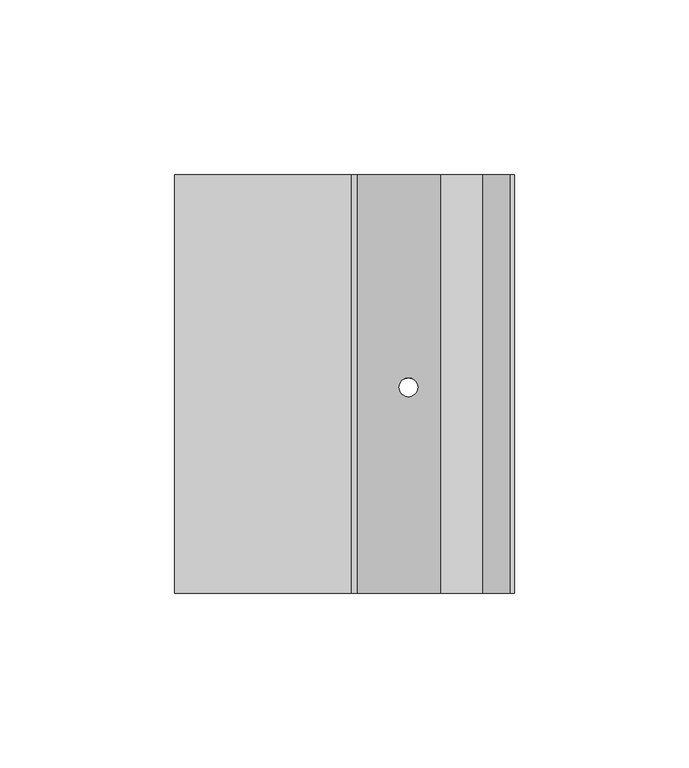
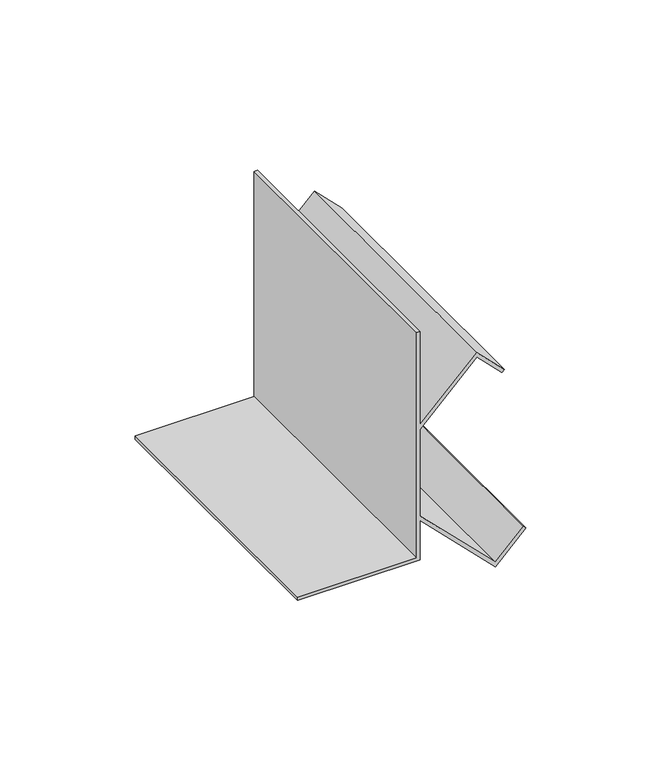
"""IFC4 building model written with IfcOpenShell, lengths in millimetres: proxy geometry, Mechanical Fittings & Accessories11 : Mechanical Fittings & Accessories."""

from ifc_helpers import new_model, si_unit, frame, origin, place, context, project, spatial, polyline, ellipse_curve, source, transform, mapped, element, save
from ifc_brep_helpers import plane_surface, revolved_surface, advanced_brep


def generic_models_41f4955b(model_context):
    return source(origin(), model_context, "Body", "AdvancedBrep", [
        advanced_brep(
        [(-12208.7639562, 2079.4963986, 4114.8), (-12259.5639562, 2079.4963986, 4114.8), (-12259.5639562, 2079.4963986, 4113.3117188), (-12207.275675, 2079.4963986, 4113.3117188), (-12207.275675, 2079.4963986, 4131.1383509), (-12175.165914, 2079.4963986, 4099.0285899), (-12162.1869427, 2079.4963986, 4112.0075612), (-12163.2393164, 2079.4963986, 4113.059935), (-12175.165914, 2079.4963986, 4101.1333374), (-12207.275675, 2079.4963986, 4133.2430984), (-12207.275675, 2079.4963986, 4172.2761118), (-12183.103414, 2079.4963986, 4196.4483729), (-12172.3674414, 2079.4963986, 4185.7124003), (-12171.3150677, 2079.4963986, 4186.7647741), (-12183.103414, 2079.4963986, 4198.5531204), (-12207.275675, 2079.4963986, 4174.3808594), (-12207.275675, 2079.4963986, 4216.4), (-12208.7639562, 2079.4963986, 4216.4), (-12208.7639562, 2199.4645457, 4114.8), (-12208.7639562, 2199.4645457, 4216.4), (-12207.275675, 2199.4645457, 4216.4), (-12207.275675, 2199.4645457, 4174.3808594), (-12183.103414, 2199.4645457, 4198.5531204), (-12171.3150677, 2199.4645457, 4186.7647741), (-12172.3674414, 2199.4645457, 4185.7124003), (-12183.103414, 2199.4645457, 4196.4483729), (-12207.275675, 2199.4645457, 4172.2761118), (-12207.275675, 2199.4645457, 4133.2430984), (-12175.165914, 2199.4645457, 4101.1333374), (-12163.2393164, 2199.4645457, 4113.059935), (-12162.1869427, 2199.4645457, 4112.0075612), (-12175.165914, 2199.4645457, 4099.0285899), (-12207.275675, 2199.4645457, 4131.1383509), (-12207.275675, 2199.4645457, 4113.3117188), (-12259.5639562, 2199.4645457, 4113.3117188), (-12259.5639562, 2199.4645457, 4114.8), (-12195.1617646, 2138.5191481, 4119.0244406), (-12189.8223978, 2138.5191481, 4113.6850737), (-12189.8223978, 2138.5191481, 4115.7898213), (-12195.1617646, 2138.5191481, 4121.1291881), (-12195.1617646, 2138.5191481, 4184.3900222), (-12189.8223978, 2138.5191481, 4189.729389), (-12189.8223978, 2138.5191481, 4191.8341365), (-12195.1617646, 2138.5191481, 4186.4947697)],
        [
            (0, 1),
            (1, 2),
            (2, 3),
            (3, 4),
            (4, 5),
            (5, 6),
            (6, 7),
            (7, 8),
            (8, 9),
            (9, 10),
            (10, 11),
            (11, 12),
            (12, 13),
            (13, 14),
            (14, 15),
            (15, 16),
            (16, 17),
            (17, 0),
            (18, 19),
            (19, 20),
            (20, 21),
            (21, 22),
            (22, 23),
            (23, 24),
            (24, 25),
            (25, 26),
            (26, 27),
            (27, 28),
            (28, 29),
            (29, 30),
            (30, 31),
            (31, 32),
            (32, 33),
            (33, 34),
            (34, 35),
            (35, 18),
            (0, 18),
            (35, 1),
            (34, 2),
            (33, 3),
            (32, 4),
            (31, 5),
            (36, 37, ellipse_curve(frame((-12192.4920812, 2138.5191481, 4116.3547571), z_axis=(0.7071067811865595, 0.0, 0.7071067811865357), x_axis=(-0.7071067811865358, 0.0, 0.7071067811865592)), 3.7755025, 2.6696834)),
            (37, 36, ellipse_curve(frame((-12192.4920812, 2138.5191481, 4116.3547571), z_axis=(0.7071067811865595, 0.0, 0.7071067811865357), x_axis=(-0.7071067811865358, 0.0, 0.7071067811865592)), 3.7755025, 2.6696834)),
            (30, 6),
            (29, 7),
            (28, 8),
            (27, 9),
            (38, 39, ellipse_curve(frame((-12192.4920812, 2138.5191481, 4118.4595047), z_axis=(-0.7071067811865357, 0.0, -0.7071067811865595), x_axis=(-0.7071067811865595, 0.0, 0.7071067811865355)), 3.7755025, 2.6696834)),
            (39, 38, ellipse_curve(frame((-12192.4920812, 2138.5191481, 4118.4595047), z_axis=(-0.7071067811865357, 0.0, -0.7071067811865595), x_axis=(-0.7071067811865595, 0.0, 0.7071067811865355)), 3.7755025, 2.6696834)),
            (26, 10),
            (25, 11),
            (40, 41, ellipse_curve(frame((-12192.4920812, 2138.5191481, 4187.0597056), z_axis=(-0.7071067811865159, 0.0, 0.7071067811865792), x_axis=(0.7071067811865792, 0.0, 0.7071067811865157)), 3.7755025, 2.6696834)),
            (41, 40, ellipse_curve(frame((-12192.4920812, 2138.5191481, 4187.0597056), z_axis=(-0.7071067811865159, 0.0, 0.7071067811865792), x_axis=(0.7071067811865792, 0.0, 0.7071067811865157)), 3.7755025, 2.6696834)),
            (24, 12),
            (23, 13),
            (22, 14),
            (21, 15),
            (42, 43, ellipse_curve(frame((-12192.4920812, 2138.5191481, 4189.1644531), z_axis=(0.7071067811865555, 0.0, -0.7071067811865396), x_axis=(0.7071067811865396, 0.0, 0.7071067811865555)), 3.7755025, 2.6696834)),
            (43, 42, ellipse_curve(frame((-12192.4920812, 2138.5191481, 4189.1644531), z_axis=(0.7071067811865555, 0.0, -0.7071067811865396), x_axis=(0.7071067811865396, 0.0, 0.7071067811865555)), 3.7755025, 2.6696834)),
            (20, 16),
            (19, 17),
            (36, 39),
            (38, 37),
            (40, 43),
            (42, 41),
        ],
        [
            plane_surface(frame((-12259.5639562, 2079.4963986, 4114.8), z_axis=(0.0, -1.0, 0.0), x_axis=(-1.0, 0.0, 0.0))),
            plane_surface(frame((-12259.5639562, 2199.4645457, 4114.8), z_axis=(0.0, 1.0, 0.0), x_axis=(1.0, 0.0, 0.0))),
            plane_surface(frame((-12208.7639562, 2079.4963986, 4114.8), z_axis=(0.0, 0.0, 1.0), x_axis=(0.0, 1.0, 0.0))),
            plane_surface(frame((-12259.5639562, 2079.4963986, 4114.8), z_axis=(-1.0, 0.0, 0.0), x_axis=(0.0, 1.0, 0.0))),
            plane_surface(frame((-12259.5639562, 2079.4963986, 4113.3117188), z_axis=(0.0, 0.0, -1.0), x_axis=(0.0, 1.0, 0.0))),
            plane_surface(frame((-12207.275675, 2079.4963986, 4113.3117188), z_axis=(1.0, 0.0, 0.0), x_axis=(0.0, 1.0, 0.0))),
            plane_surface(frame((-12207.275675, 2079.4963986, 4131.1383509), z_axis=(-0.7071067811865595, 0.0, -0.7071067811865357), x_axis=(0.0, 1.0, 0.0))),
            plane_surface(frame((-12175.165914, 2079.4963986, 4099.0285899), z_axis=(0.7071067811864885, 0.0, -0.7071067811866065), x_axis=(0.0, 1.0, 0.0))),
            plane_surface(frame((-12162.1869427, 2079.4963986, 4112.0075612), z_axis=(0.7071067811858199, 0.0, 0.7071067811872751), x_axis=(0.0, 1.0, 0.0))),
            plane_surface(frame((-12163.2393164, 2079.4963986, 4113.059935), z_axis=(-0.7071067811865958, 0.0, 0.7071067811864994), x_axis=(0.0, 1.0, 0.0))),
            plane_surface(frame((-12175.165914, 2079.4963986, 4101.1333374), z_axis=(0.7071067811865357, 0.0, 0.7071067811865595), x_axis=(0.0, 1.0, 0.0))),
            plane_surface(frame((-12207.275675, 2079.4963986, 4133.2430984), z_axis=(1.0, 0.0, 0.0), x_axis=(0.0, 1.0, 0.0))),
            plane_surface(frame((-12207.275675, 2079.4963986, 4172.2761118), z_axis=(0.7071067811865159, 0.0, -0.7071067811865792), x_axis=(0.0, 1.0, 0.0))),
            plane_surface(frame((-12183.103414, 2079.4963986, 4196.4483729), z_axis=(-0.7071067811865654, 0.0, -0.7071067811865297), x_axis=(0.0, 1.0, 0.0))),
            plane_surface(frame((-12172.3674414, 2079.4963986, 4185.7124003), z_axis=(0.7071067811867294, 0.0, -0.7071067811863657), x_axis=(0.0, 1.0, 0.0))),
            plane_surface(frame((-12171.3150677, 2079.4963986, 4186.7647741), z_axis=(0.707106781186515, 0.0, 0.70710678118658), x_axis=(0.0, 1.0, 0.0))),
            plane_surface(frame((-12183.103414, 2079.4963986, 4198.5531204), z_axis=(-0.7071067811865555, 0.0, 0.7071067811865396), x_axis=(0.0, 1.0, 0.0))),
            plane_surface(frame((-12207.275675, 2079.4963986, 4174.3808594), z_axis=(1.0, 0.0, 0.0), x_axis=(0.0, 1.0, 0.0))),
            plane_surface(frame((-12207.275675, 2079.4963986, 4216.4), z_axis=(0.0, 0.0, 1.0), x_axis=(0.0, 1.0, 0.0))),
            plane_surface(frame((-12208.7639562, 2079.4963986, 4216.4), z_axis=(-1.0, 0.0, 0.0), x_axis=(0.0, 1.0, 0.0))),
            revolved_surface(polyline([(-12189.8223978, 2138.5191481, 4121.129188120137), (-12189.8223978, 2138.5191481, 4113.685073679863)]), (-12192.4920812, 2138.5191481, 4097.2034211), (0.0, 0.0, 1.0)),
            revolved_surface(polyline([(-12189.8223978, 2138.5191481, 4191.834136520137), (-12189.8223978, 2138.5191481, 4184.390022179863)]), (-12192.4920812, 2138.5191481, 4097.2034211), (0.0, 0.0, 1.0)),
        ],
        [
            (0, [[1, 2, 3, 4, 5, 6, 7, 8, 9, 10, 11, 12, 13, 14, 15, 16, 17, 18]]),
            (1, [[19, 20, 21, 22, 23, 24, 25, 26, 27, 28, 29, 30, 31, 32, 33, 34, 35, 36]]),
            (2, [[-1, 37, -36, 38]]),
            (3, [[-2, -38, -35, 39]]),
            (4, [[-3, -39, -34, 40]]),
            (5, [[-4, -40, -33, 41]]),
            (6, [[-5, -41, -32, 42], [43, 44]]),
            (7, [[-6, -42, -31, 45]]),
            (8, [[-7, -45, -30, 46]]),
            (9, [[-8, -46, -29, 47]]),
            (10, [[-9, -47, -28, 48], [49, 50]]),
            (11, [[-10, -48, -27, 51]]),
            (12, [[-11, -51, -26, 52], [53, 54]]),
            (13, [[-12, -52, -25, 55]]),
            (14, [[-13, -55, -24, 56]]),
            (15, [[-14, -56, -23, 57]]),
            (16, [[-15, -57, -22, 58], [59, 60]]),
            (17, [[-16, -58, -21, 61]]),
            (18, [[-17, -61, -20, 62]]),
            (19, [[-18, -62, -19, -37]]),
            (20, [[63, -49, 64, -43]]),
            (21, [[65, -59, 66, -53]]),
            (20, [[-63, -44, -64, -50]]),
            (21, [[-65, -54, -66, -60]]),
        ],
    ),
    ])


if __name__ == "__main__":
    model = new_model("IFC4")
    model_context = context("Model", 3, world=origin())
    ifc_project = project(units=[si_unit("LENGTHUNIT", "METRE", prefix="MILLI")], contexts=[model_context])
    site = spatial("IfcSite", under=ifc_project)
    building = spatial("IfcBuilding", under=site)
    placement = place(None, origin())
    generic_models_shape = generic_models_41f4955b(model_context)
    element("IfcBuildingElementProxy", 1, Name="Mechanical Fittings & Accessories11 : Mechanical Fittings & Accessories", ObjectType="Mechanical Fittings & Accessories11 : Mechanical Fittings & Accessories", at=placement, inside=building, context=model_context, shape_type="MappedRepresentation", body=[
        mapped(generic_models_shape, transform((0.0, 0.0, 0.0), x_axis=(1.0, 0.0, 0.0), y_axis=(0.0, 1.0, 0.0), z_axis=(0.0, 0.0, 1.0))),
    ])
    save(model, "model.ifc")
